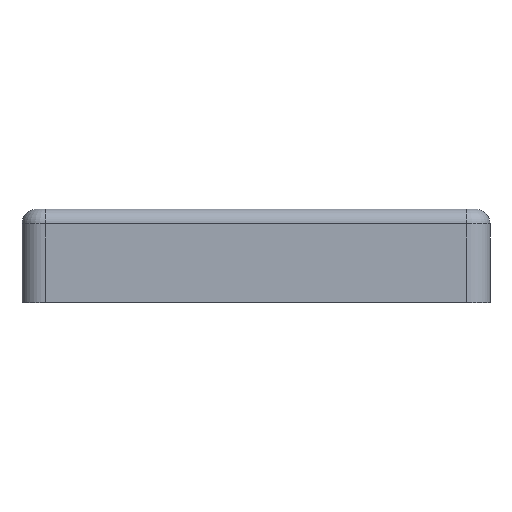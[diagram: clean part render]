
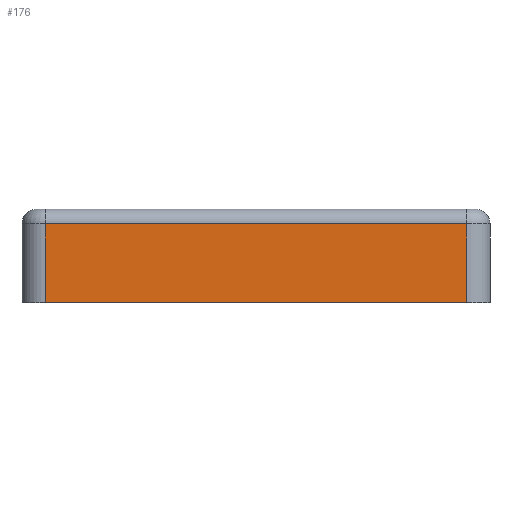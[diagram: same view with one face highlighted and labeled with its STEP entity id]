
A CAD part, left-side view. The second image highlights one B-rep face of the part: STEP entity #176.
In plain terms, the highlighted planar face has unit normal (-1, 0, 0).
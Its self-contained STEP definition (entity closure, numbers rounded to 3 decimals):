
#12 = ORIENTED_EDGE ( 'NONE', *, *, #852, .T. ) ;
#13 = LINE ( 'NONE', #1187, #908 ) ;
#30 = FACE_OUTER_BOUND ( 'NONE', #95, .T. ) ;
#81 = ORIENTED_EDGE ( 'NONE', *, *, #250, .T. ) ;
#95 = EDGE_LOOP ( 'NONE', ( #12, #419, #328, #81 ) ) ;
#97 = LINE ( 'NONE', #108, #154 ) ;
#107 = EDGE_CURVE ( 'NONE', #258, #823, #97, .T. ) ;
#108 = CARTESIAN_POINT ( 'NONE',  ( -40., -36., 6.75 ) ) ;
#113 = AXIS2_PLACEMENT_3D ( 'NONE', #1206, #418, #1104 ) ;
#130 = DIRECTION ( 'NONE',  ( 0., 1., 0. ) ) ;
#154 = VECTOR ( 'NONE', #1066, 1000. ) ;
#176 = ADVANCED_FACE ( 'NONE', ( #30 ), #422, .T. ) ;
#181 = VERTEX_POINT ( 'NONE', #708 ) ;
#210 = DIRECTION ( 'NONE',  ( 0., 1., 0. ) ) ;
#234 = CARTESIAN_POINT ( 'NONE',  ( -40., -36., 13.5 ) ) ;
#250 = EDGE_CURVE ( 'NONE', #258, #181, #412, .T. ) ;
#258 = VERTEX_POINT ( 'NONE', #234 ) ;
#323 = CARTESIAN_POINT ( 'NONE',  ( -40., -36., 13.5 ) ) ;
#328 = ORIENTED_EDGE ( 'NONE', *, *, #107, .F. ) ;
#412 = LINE ( 'NONE', #323, #449 ) ;
#418 = DIRECTION ( 'NONE',  ( -1., 0., 0. ) ) ;
#419 = ORIENTED_EDGE ( 'NONE', *, *, #1177, .F. ) ;
#422 = PLANE ( 'NONE',  #113 ) ;
#434 = CARTESIAN_POINT ( 'NONE',  ( -40., -36., 0. ) ) ;
#449 = VECTOR ( 'NONE', #130, 1000. ) ;
#472 = VERTEX_POINT ( 'NONE', #871 ) ;
#536 = CARTESIAN_POINT ( 'NONE',  ( -40., 36., 6.75 ) ) ;
#708 = CARTESIAN_POINT ( 'NONE',  ( -40., 36., 13.5 ) ) ;
#714 = VECTOR ( 'NONE', #1240, 1000. ) ;
#823 = VERTEX_POINT ( 'NONE', #434 ) ;
#852 = EDGE_CURVE ( 'NONE', #181, #472, #1018, .T. ) ;
#871 = CARTESIAN_POINT ( 'NONE',  ( -40., 36., 0. ) ) ;
#908 = VECTOR ( 'NONE', #210, 1000. ) ;
#1018 = LINE ( 'NONE', #536, #714 ) ;
#1066 = DIRECTION ( 'NONE',  ( 0., 0., -1. ) ) ;
#1104 = DIRECTION ( 'NONE',  ( 0., 0., 1. ) ) ;
#1177 = EDGE_CURVE ( 'NONE', #823, #472, #13, .T. ) ;
#1187 = CARTESIAN_POINT ( 'NONE',  ( -40., -36., 0. ) ) ;
#1206 = CARTESIAN_POINT ( 'NONE',  ( -40., -36., 13.5 ) ) ;
#1240 = DIRECTION ( 'NONE',  ( 0., 0., -1. ) ) ;
